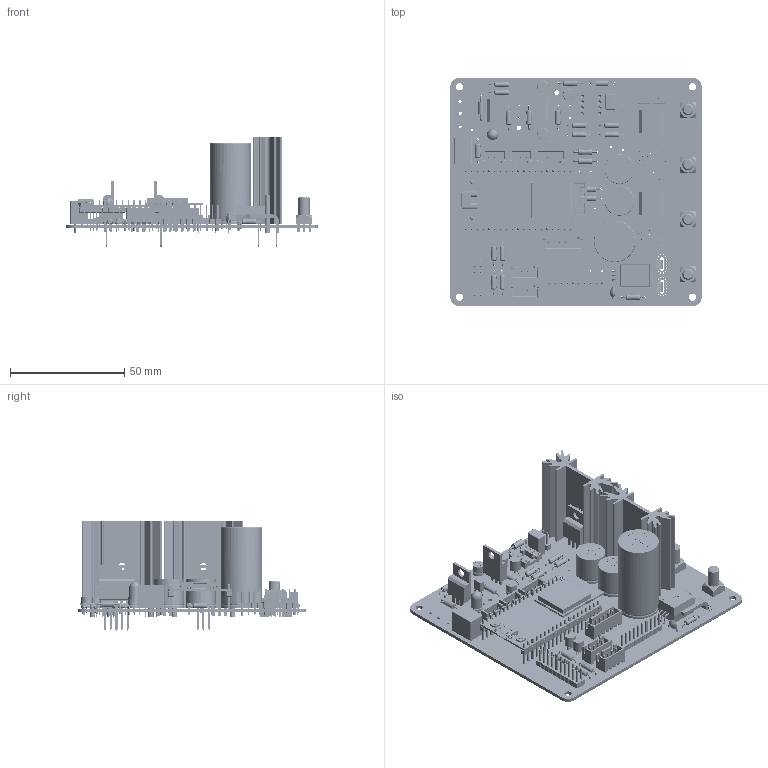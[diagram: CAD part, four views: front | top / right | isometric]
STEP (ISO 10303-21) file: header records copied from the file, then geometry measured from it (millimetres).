
FILE_DESCRIPTION(('KiCad electronic assembly'),'2;1');
FILE_NAME('Ajax 2 V4.step','2023-09-04T21:49:07',('Pcbnew'),('Kicad'), 'Open CASCADE STEP processor 7.6','KiCad to STEP converter','Unknown' );
FILE_SCHEMA(('AUTOMOTIVE_DESIGN { 1 0 10303 214 1 1 1 1 }'));
Length unit declared in the file: millimetre
Products named in the file (48): Ajax 2 V4 1; JST_XH_B4B-XH-A_1x04_P2.50mm_Vertical; SOLID; TO-220-3_Vertical; R_Axial_DIN0207_L6.3mm_D2.5mm_P10.16mm_Horizontal; TO-92_Inline; JST_XH_B6B-XH-A_1x06_P2.50mm_Vertical; CP_Radial_D5.0mm_P2.00mm; Converter_DCDC_TRACO_TSR-1_THT; JST_XH_B3B-XH-A_1x03_P2.50mm_Vertical; LED_D5.0mm_IRBlack; DIP-8_W7.62mm_Socket; C_Radial_D18.0mm_H35.5mm_P7.50mm; 7461001; PinHeader_1x02_P2.54mm_Vertical; 513102B02500G--3DModel-STEP-56544; COMPOUND; C_Rect_L7.0mm_W4.5mm_P5.00mm; C_Disc_D4.7mm_W2.5mm_P5.00mm; D_DO-41_SOD81_P10.16mm_Horizontal; TO-92_Inline_Wide; CP_Radial_D13.0mm_P5.00mm; ACS758LCB-100B-PFF-T--3DModel-STEP-56544; PinHeader_2x10_P2.54mm_Vertical; PinHeader_1x10_P2.54mm_Vertical; ESP32-DEVKITC; _autosave-Ajax 2 V4 PCB
Assembly tree (88 placements, depth 3):
  Ajax 2 V4 1
    JST_XH_B4B-XH-A_1x04_P2.50mm_Vertical  x3
      SOLID
    TO-220-3_Vertical  x6
      SOLID
    R_Axial_DIN0207_L6.3mm_D2.5mm_P10.16mm_Horizontal  x24
      SOLID
    TO-92_Inline  x2
      SOLID
    JST_XH_B6B-XH-A_1x06_P2.50mm_Vertical
      SOLID
    CP_Radial_D5.0mm_P2.00mm  x3
      SOLID
    Converter_DCDC_TRACO_TSR-1_THT
      SOLID
    JST_XH_B3B-XH-A_1x03_P2.50mm_Vertical  x2
      SOLID
    LED_D5.0mm_IRBlack
      SOLID
    DIP-8_W7.62mm_Socket
      SOLID
    C_Radial_D18.0mm_H35.5mm_P7.50mm
      SOLID
    7461001  x4
      SOLID
    PinHeader_1x02_P2.54mm_Vertical
      SOLID
    513102B02500G--3DModel-STEP-56544  x2
      COMPOUND
    C_Rect_L7.0mm_W4.5mm_P5.00mm
      SOLID
    C_Disc_D4.7mm_W2.5mm_P5.00mm
      SOLID
    D_DO-41_SOD81_P10.16mm_Horizontal  x2
      SOLID
    TO-92_Inline_Wide  x2
      SOLID
    CP_Radial_D13.0mm_P5.00mm  x2
      SOLID
    ACS758LCB-100B-PFF-T--3DModel-STEP-56544
      COMPOUND
    PinHeader_2x10_P2.54mm_Vertical
      SOLID
    PinHeader_1x10_P2.54mm_Vertical
      SOLID
    ESP32-DEVKITC
      COMPOUND
    _autosave-Ajax 2 V4 PCB
Bounding box: 110 x 100 x 47.85 mm (x, y, z)
Volume: 54917.9 mm3; surface area: 67743.8 mm2
Topology: 255 solids, 261 shells, 7832 faces, 18848 edges, 11848 vertices
Faces by surface type: plane 6243, cylinder 1323, torus 126, bspline 56, cone 48, revolution 29, sphere 7
Full cylindrical faces by diameter (mm): 0.5 x47, 0.508 x16, 0.6 x96, 0.71 x6, 0.75 x6, 0.8 x85, 0.9 x6, 0.95 x24, 1 x37, 1.01 x4, 1.02 x38, 1.1 x22, 1.2 x4, 1.4 x2, 1.524 x8, 1.55 x36, 1.724 x8, 2 x2, 2.25 x24, 2.5 x52, 2.7 x4, 2.72 x2, 3.2 x4, 3.735 x6, 4.9 x1, 12.6 x3, 18 x2
Entity records: 398880 total; most frequent: CARTESIAN_POINT 76903, DIRECTION 58159, LINE 40640, VECTOR 40640, ORIENTED_EDGE 30204, PCURVE 30204, DEFINITIONAL_REPRESENTATION 30204, EDGE_CURVE 15102
